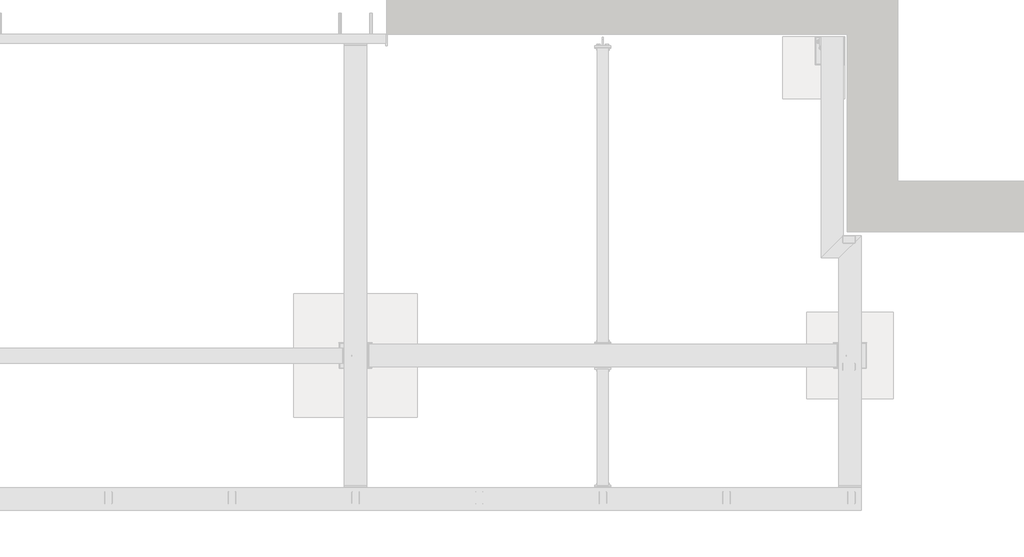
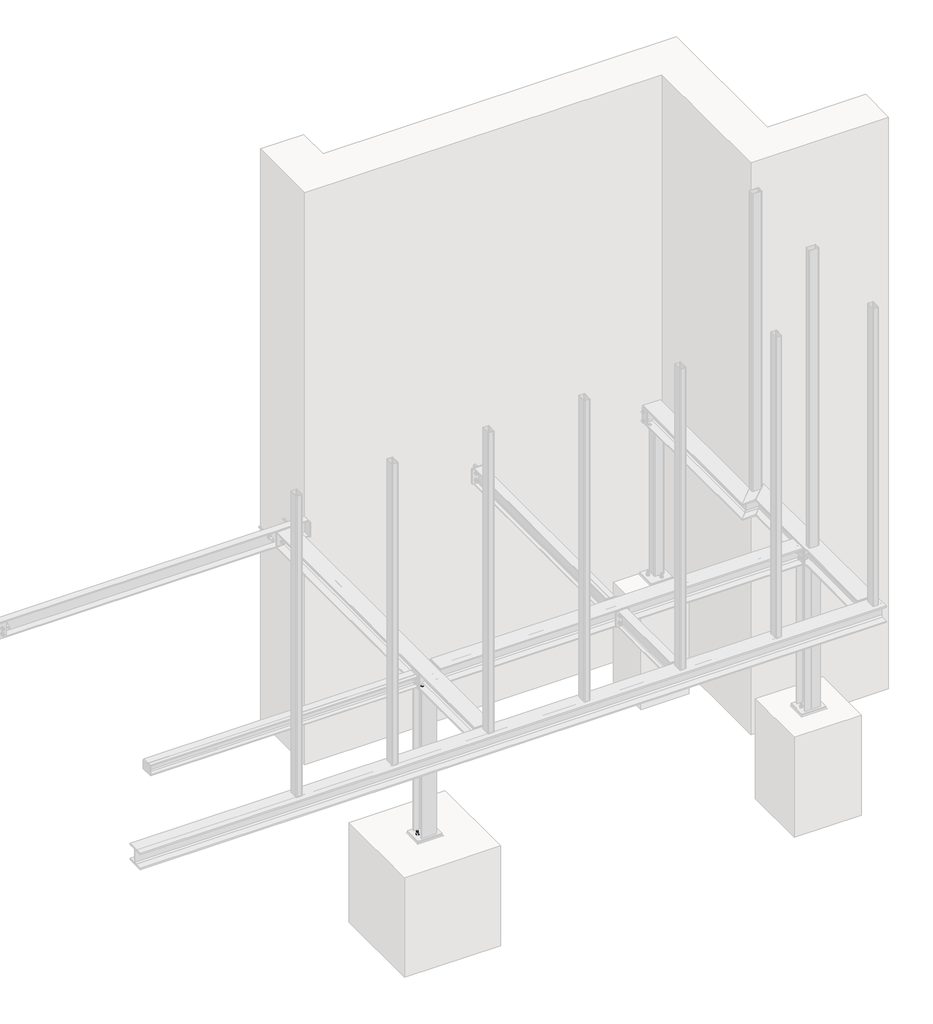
# One storey, part 27 of 31: 6 assemblies.
"""IFC4 building model written with IfcOpenShell, lengths in millimetres."""

import ifcopenshell
import ifcopenshell.guid

model = None  # the IFC model being written
_history = None  # IfcOwnerHistory: only IFC2X3 demands one
_inside = {}  # id of a spatial element -> (the spatial element, [elements in it])
_under = {}  # id of a project, library or spatial element -> (it, [spatial elements below it])
_declared = {}  # id of a project -> (the project, [libraries it declares])
_typed = {}  # id of a type object -> (the type object, [elements of that type])
_made_of = {}  # id of a material, layer set ... -> (it, [elements and type objects made of it])


def new_model(schema):
    """Start an empty IFC model of exactly this schema.

    Asked for "IFC4X3", IfcOpenShell would pick the latest addendum, in which some entities
    have other attributes; the version numbers below select the first issue.
    IFC2X3 requires an IfcOwnerHistory on every rooted entity: one is made here for all.
    """
    global model, _history
    if schema == "IFC4X3":
        model = ifcopenshell.file(schema_version=(4, 3, 0, 0))
    else:
        model = ifcopenshell.file(schema=schema)
    _inside.clear()
    _under.clear()
    _declared.clear()
    _typed.clear()
    _made_of.clear()
    _history = None
    if model.schema == "IFC2X3":
        org = make("IfcOrganization", Name="unknown")
        user = make(
            "IfcPersonAndOrganization",
            ThePerson=make("IfcPerson", FamilyName="unknown"),
            TheOrganization=org,
        )
        app = make(
            "IfcApplication",
            ApplicationDeveloper=org,
            Version="unknown",
            ApplicationFullName="unknown",
            ApplicationIdentifier="unknown",
        )
        _history = make(
            "IfcOwnerHistory",
            OwningUser=user,
            OwningApplication=app,
            ChangeAction="ADDED",
            CreationDate=0,
        )
    return model


def make(cls, **values):
    """One entity of the class cls with the attributes given. An attribute that is None is left unset."""
    return model.create_entity(
        cls, **{name: value for name, value in values.items() if value is not None}
    )


def rooted(cls, **values):
    """An entity with a GlobalId (a new one), such as an element, a storey or a relation."""
    return make(cls, GlobalId=ifcopenshell.guid.new(), OwnerHistory=_history, **values)


def si_unit(unit_type, name, prefix=None):
    """IfcSIUnit, for example si_unit("LENGTHUNIT", "METRE", prefix="MILLI")."""
    return make("IfcSIUnit", UnitType=unit_type, Prefix=prefix, Name=name)


def assignment(units):
    """IfcUnitAssignment: the units of a project."""
    return None if units is None else make("IfcUnitAssignment", Units=units)


def point(xyz):
    """IfcCartesianPoint."""
    return None if xyz is None else make("IfcCartesianPoint", Coordinates=xyz)


def direction(xyz):
    """IfcDirection."""
    return None if xyz is None else make("IfcDirection", DirectionRatios=xyz)


def frame(location, z_axis=None, x_axis=None):
    """IfcAxis2Placement3D, a coordinate frame: its origin and axes. An axis left out is left unset."""
    return make(
        "IfcAxis2Placement3D",
        Location=point(location),
        Axis=direction(z_axis),
        RefDirection=direction(x_axis),
    )


def frame_2d(location, x_axis=None):
    """IfcAxis2Placement2D, a coordinate frame in the plane: its origin and x axis."""
    return make(
        "IfcAxis2Placement2D", Location=point(location), RefDirection=direction(x_axis)
    )


def origin():
    """The frame at (0, 0, 0) with its axes left unset."""
    return frame((0.0, 0.0, 0.0))


def place(relative_to, where):
    """IfcLocalPlacement: puts the frame where relative to a parent placement (None: the world)."""
    return make(
        "IfcLocalPlacement", PlacementRelTo=relative_to, RelativePlacement=where
    )


def context(
    kind, dimensions, precision=None, world=None, true_north=None, identifier=None
):
    """IfcGeometricRepresentationContext, for example the 3D "Model" context."""
    return make(
        "IfcGeometricRepresentationContext",
        ContextIdentifier=identifier,
        ContextType=kind,
        CoordinateSpaceDimension=dimensions,
        Precision=precision,
        WorldCoordinateSystem=world,
        TrueNorth=true_north,
    )


def project(units=None, contexts=None):
    """IfcProject with its units and contexts."""
    return rooted(
        "IfcProject",
        Name="project",
        RepresentationContexts=contexts,
        UnitsInContext=assignment(units),
    )


def spatial(cls, under=None, at=None, **own):
    """A site, building, storey or space (cls), placed at a placement, below another one or the project."""
    s = rooted(cls, ObjectPlacement=at, **own)
    if under is not None:
        _under.setdefault(under.id(), (under, []))[1].append(s)
    return s


def polyline(points):
    """IfcPolyline through the points."""
    return make("IfcPolyline", Points=[point(p) for p in points])


def circle_curve(where, radius):
    """IfcCircle in the frame where."""
    return make("IfcCircle", Position=where, Radius=radius)


def trimmed(basis, trim1, trim2, sense, master):
    """IfcTrimmedCurve: the piece of a basis curve between two trims."""
    return make(
        "IfcTrimmedCurve",
        BasisCurve=basis,
        Trim1=trim1,
        Trim2=trim2,
        SenseAgreement=sense,
        MasterRepresentation=master,
    )


def segment(curve, same_sense, transition):
    """IfcCompositeCurveSegment."""
    return make(
        "IfcCompositeCurveSegment",
        Transition=transition,
        SameSense=same_sense,
        ParentCurve=curve,
    )


def composite_curve(segments, self_intersect=None):
    """IfcCompositeCurve: segments joined end to end."""
    return make("IfcCompositeCurve", Segments=segments, SelfIntersect=self_intersect)


def outline(outer, holes=None, kind="AREA"):
    """IfcArbitraryClosedProfileDef: a profile drawn as a closed curve; with holes, ...WithVoids."""
    if holes is None:
        return make("IfcArbitraryClosedProfileDef", ProfileType=kind, OuterCurve=outer)
    return make(
        "IfcArbitraryProfileDefWithVoids",
        ProfileType=kind,
        OuterCurve=outer,
        InnerCurves=holes,
    )


def extrude(swept, where, along, depth):
    """IfcExtrudedAreaSolid: the profile swept, set in the frame where, extruded along a direction by depth."""
    return make(
        "IfcExtrudedAreaSolid",
        SweptArea=swept,
        Position=where,
        ExtrudedDirection=direction(along),
        Depth=depth,
    )


def faces_of(points, faces, orient=None, outer=None):
    """IfcFace entities. A face is a list of loops; a loop is a list of indices into points, from 0.

    orient and outer hold one flag for each loop. By default every Orientation is true, the
    first loop of a face is its IfcFaceOuterBound and the others are IfcFaceBound.
    """
    made = []
    for i, loops in enumerate(faces):
        bounds = []
        for j, loop in enumerate(loops):
            is_outer = j == 0 if outer is None else outer[i][j]
            bounds.append(
                make(
                    "IfcFaceOuterBound" if is_outer else "IfcFaceBound",
                    Bound=make("IfcPolyLoop", Polygon=[points[k] for k in loop]),
                    Orientation=True if orient is None else orient[i][j],
                )
            )
        made.append(make("IfcFace", Bounds=bounds))
    return made


def faceted_brep(points, faces, orient=None, outer=None, voids=None):
    """IfcFacetedBrep: a solid bounded by flat faces; with voids (closed shells), ...WithVoids."""
    shared = [point(p) for p in points]
    hull = make("IfcClosedShell", CfsFaces=faces_of(shared, faces, orient, outer))
    if voids is None:
        return make("IfcFacetedBrep", Outer=hull)
    return make(
        "IfcFacetedBrepWithVoids",
        Outer=hull,
        Voids=[
            make(cls, CfsFaces=faces_of(shared, fs, o, b)) for cls, fs, o, b in voids
        ],
    )


def shape(context_of_items, identifier, shape_type, items):
    """IfcShapeRepresentation: the items that make up one representation, for example the "Body"."""
    return make(
        "IfcShapeRepresentation",
        ContextOfItems=context_of_items,
        RepresentationIdentifier=identifier,
        RepresentationType=shape_type,
        Items=items,
    )


def made_of(thing, what):
    """Note that an element or type object is made of a material, layer set ...; save() writes the relation."""
    if what is not None:
        _made_of.setdefault(what.id(), (what, []))[1].append(thing)
    return thing


def element(
    cls,
    number,
    at=None,
    inside=None,
    cuts=None,
    type_object=None,
    material=None,
    context=None,
    identifier="Body",
    shape_type=None,
    held_by="IfcProductDefinitionShape",
    body=None,
    shapes=None,
    **own,
):
    """One element of the class cls, such as IfcWall. Its Tag is "e" and its number.

    at: its placement. inside: the storey or other place that contains it. cuts: it is an
    opening in that element (IfcRelVoidsElement). A single representation is given by context,
    identifier, shape_type and body (its items); several are given by shapes. held_by: the class
    of the entity that holds the representations. save() writes the other relations.
    """
    e = rooted(cls, Tag="e%d" % number, ObjectPlacement=at, **own)
    if body is not None:
        shapes = [shape(context, identifier, shape_type, body)]
    if shapes is not None:
        e.Representation = make(held_by, Representations=shapes)
    if inside is not None:
        _inside.setdefault(inside.id(), (inside, []))[1].append(e)
    if cuts is not None:
        rooted(
            "IfcRelVoidsElement", RelatingBuildingElement=cuts, RelatedOpeningElement=e
        )
    if type_object is not None:
        _typed.setdefault(type_object.id(), (type_object, []))[1].append(e)
    return made_of(e, material)


def aggregate(whole, parts):
    """IfcRelAggregates: a whole, such as a stair, and the parts it consists of."""
    return rooted("IfcRelAggregates", RelatingObject=whole, RelatedObjects=parts)


def save(model, path):
    """Write the relations noted so far, then the file.

    IfcRelAggregates (storeys below a building ...), IfcRelContainedInSpatialStructure (elements
    in a storey), IfcRelDefinesByType, IfcRelAssociatesMaterial and IfcRelDeclares: one each for
    every whole, place, type object, material and project.
    """
    for whole, parts in _under.values():
        aggregate(whole, parts)
    for where, things in _inside.values():
        rooted(
            "IfcRelContainedInSpatialStructure",
            RelatedElements=things,
            RelatingStructure=where,
        )
    for kind, things in _typed.values():
        rooted("IfcRelDefinesByType", RelatedObjects=things, RelatingType=kind)
    for what, things in _made_of.values():
        rooted("IfcRelAssociatesMaterial", RelatedObjects=things, RelatingMaterial=what)
    for by, libraries in _declared.values():
        rooted("IfcRelDeclares", RelatingContext=by, RelatedDefinitions=libraries)
    model.write(path)


model = new_model("IFC4")

# Units and contexts
model_context = context("Model", 3, world=origin())
ifc_project = project(units=[si_unit("LENGTHUNIT", "METRE", prefix="MILLI")], contexts=[model_context])

# Site, building, storey
site = spatial("IfcSite", under=ifc_project)
building = spatial("IfcBuilding", under=site)
storey = spatial("IfcBuildingStorey", under=building, Name="Základy", Elevation=-1200.0)

# Assemblies
placement = place(None, origin())
element("IfcElementAssembly", 1, at=placement, inside=storey, context=model_context, shape_type="SweptSolid", body=[
    extrude(outline(composite_curve([segment(polyline([(14073.6, 60.0), (14026.4, 60.0)]), True, "CONTINUOUS"), segment(trimmed(circle_curve(frame_2d((14026.4, 66.4)), 6.4), [point((14026.4, 60.0))], [point((14020.0, 66.4))], False, "CARTESIAN"), True, "CONTINUOUS"), segment(polyline([(14020.0, 66.4), (14020.0, 153.6)]), True, "CONTINUOUS"), segment(trimmed(circle_curve(frame_2d((14026.4, 153.6)), 6.4), [point((14020.0, 153.6))], [point((14026.4, 160.0))], False, "CARTESIAN"), True, "CONTINUOUS"), segment(polyline([(14026.4, 160.0), (14073.6, 160.0)]), True, "CONTINUOUS"), segment(trimmed(circle_curve(frame_2d((14073.6, 153.6)), 6.4), [point((14073.6, 160.0))], [point((14080.0, 153.6))], False, "CARTESIAN"), True, "CONTINUOUS"), segment(polyline([(14080.0, 153.6), (14080.0, 66.4)]), True, "CONTINUOUS"), segment(trimmed(circle_curve(frame_2d((14073.6, 66.4)), 6.4), [point((14080.0, 66.4))], [point((14073.6, 60.0))], False, "CARTESIAN"), True, "CONTINUOUS")], self_intersect=False), holes=[composite_curve([segment(trimmed(circle_curve(frame_2d((14073.6, 66.4)), 3.2), [point((14073.6, 63.2))], [point((14076.8, 66.4))], True, "CARTESIAN"), True, "CONTINUOUS"), segment(polyline([(14076.8, 66.4), (14076.8, 153.6)]), True, "CONTINUOUS"), segment(trimmed(circle_curve(frame_2d((14073.6, 153.6)), 3.2), [point((14076.8, 153.6))], [point((14073.6, 156.8))], True, "CARTESIAN"), True, "CONTINUOUS"), segment(polyline([(14073.6, 156.8), (14026.4, 156.8)]), True, "CONTINUOUS"), segment(trimmed(circle_curve(frame_2d((14026.4, 153.6)), 3.2), [point((14026.4, 156.8))], [point((14023.2, 153.6))], True, "CARTESIAN"), True, "CONTINUOUS"), segment(polyline([(14023.2, 153.6), (14023.2, 66.4)]), True, "CONTINUOUS"), segment(trimmed(circle_curve(frame_2d((14026.4, 66.4)), 3.2), [point((14023.2, 66.4))], [point((14026.4, 63.2))], True, "CARTESIAN"), True, "CONTINUOUS"), segment(polyline([(14026.4, 63.2), (14073.6, 63.2)]), True, "CONTINUOUS")], self_intersect=False)]), frame((0.0, 0.0, -160.0), z_axis=(0.0, 0.0, 1.0), x_axis=(1.0, 0.0, 0.0)), (0.0, 0.0, 1.0), 3320.0),
])
element("IfcElementAssembly", 2, at=placement, inside=storey, context=model_context, shape_type="SweptSolid", body=[
    extrude(outline(composite_curve([segment(polyline([(15073.6, 60.0), (15026.4, 60.0)]), True, "CONTINUOUS"), segment(trimmed(circle_curve(frame_2d((15026.4, 66.4)), 6.4), [point((15026.4, 60.0))], [point((15020.0, 66.4))], False, "CARTESIAN"), True, "CONTINUOUS"), segment(polyline([(15020.0, 66.4), (15020.0, 153.6)]), True, "CONTINUOUS"), segment(trimmed(circle_curve(frame_2d((15026.4, 153.6)), 6.4), [point((15020.0, 153.6))], [point((15026.4, 160.0))], False, "CARTESIAN"), True, "CONTINUOUS"), segment(polyline([(15026.4, 160.0), (15073.6, 160.0)]), True, "CONTINUOUS"), segment(trimmed(circle_curve(frame_2d((15073.6, 153.6)), 6.4), [point((15073.6, 160.0))], [point((15080.0, 153.6))], False, "CARTESIAN"), True, "CONTINUOUS"), segment(polyline([(15080.0, 153.6), (15080.0, 66.4)]), True, "CONTINUOUS"), segment(trimmed(circle_curve(frame_2d((15073.6, 66.4)), 6.4), [point((15080.0, 66.4))], [point((15073.6, 60.0))], False, "CARTESIAN"), True, "CONTINUOUS")], self_intersect=False), holes=[composite_curve([segment(trimmed(circle_curve(frame_2d((15073.6, 66.4)), 3.2), [point((15073.6, 63.2))], [point((15076.8, 66.4))], True, "CARTESIAN"), True, "CONTINUOUS"), segment(polyline([(15076.8, 66.4), (15076.8, 153.6)]), True, "CONTINUOUS"), segment(trimmed(circle_curve(frame_2d((15073.6, 153.6)), 3.2), [point((15076.8, 153.6))], [point((15073.6, 156.8))], True, "CARTESIAN"), True, "CONTINUOUS"), segment(polyline([(15073.6, 156.8), (15026.4, 156.8)]), True, "CONTINUOUS"), segment(trimmed(circle_curve(frame_2d((15026.4, 153.6)), 3.2), [point((15026.4, 156.8))], [point((15023.2, 153.6))], True, "CARTESIAN"), True, "CONTINUOUS"), segment(polyline([(15023.2, 153.6), (15023.2, 66.4)]), True, "CONTINUOUS"), segment(trimmed(circle_curve(frame_2d((15026.4, 66.4)), 3.2), [point((15023.2, 66.4))], [point((15026.4, 63.2))], True, "CARTESIAN"), True, "CONTINUOUS"), segment(polyline([(15026.4, 63.2), (15073.6, 63.2)]), True, "CONTINUOUS")], self_intersect=False)]), frame((0.0, 0.0, -160.0), z_axis=(0.0, 0.0, 1.0), x_axis=(1.0, 0.0, 0.0)), (0.0, 0.0, 1.0), 3320.0),
])
element("IfcElementAssembly", 3, at=placement, inside=storey, context=model_context, shape_type="SweptSolid", body=[
    extrude(outline(composite_curve([segment(polyline([(12130.0, 1184.0), (11970.0, 1184.0), (11970.0, 1193.0), (12032.0, 1193.0)]), True, "CONTINUOUS"), segment(trimmed(circle_curve(frame_2d((12032.0, 1208.0)), 15.0), [point((12032.0, 1193.0))], [point((12047.0, 1208.0))], True, "CARTESIAN"), True, "CONTINUOUS"), segment(polyline([(12047.0, 1208.0), (12047.0, 1312.0)]), True, "CONTINUOUS"), segment(trimmed(circle_curve(frame_2d((12032.0, 1312.0)), 15.0), [point((12047.0, 1312.0))], [point((12032.0, 1327.0))], True, "CARTESIAN"), True, "CONTINUOUS"), segment(polyline([(12032.0, 1327.0), (11970.0, 1327.0), (11970.0, 1336.0), (12130.0, 1336.0), (12130.0, 1327.0), (12068.0, 1327.0)]), True, "CONTINUOUS"), segment(trimmed(circle_curve(frame_2d((12068.0, 1312.0)), 15.0), [point((12068.0, 1327.0))], [point((12053.0, 1312.0))], True, "CARTESIAN"), True, "CONTINUOUS"), segment(polyline([(12053.0, 1312.0), (12053.0, 1208.0)]), True, "CONTINUOUS"), segment(trimmed(circle_curve(frame_2d((12068.0, 1208.0)), 15.0), [point((12053.0, 1208.0))], [point((12068.0, 1193.0))], True, "CARTESIAN"), True, "CONTINUOUS"), segment(polyline([(12068.0, 1193.0), (12130.0, 1193.0), (12130.0, 1184.0)]), True, "CONTINUOUS")], self_intersect=False)), frame((0.0, 0.0, -1975.0), z_axis=(0.0, 0.0, 1.0), x_axis=(1.0, 0.0, 0.0)), (0.0, 0.0, 1.0), 1625.0),
    extrude(outline(polyline([(12175.0, 1356.0), (12175.0, 1164.0), (11925.0, 1164.0), (11925.0, 1356.0), (12175.0, 1356.0)])), frame((0.0, 0.0, -1990.0), z_axis=(0.0, 0.0, 1.0), x_axis=(1.0, 0.0, 0.0)), (0.0, 0.0, 1.0), 15.0),
    extrude(outline(polyline([(12140.0, 1346.0), (12140.0, 1174.0), (11960.0, 1174.0), (11960.0, 1346.0), (12140.0, 1346.0)])), frame((0.0, 0.0, -350.0), z_axis=(0.0, 0.0, 1.0), x_axis=(1.0, 0.0, 0.0)), (0.0, 0.0, 1.0), 10.0),
    extrude(outline(polyline([(11982.7364934, 1260.0), (11978.8682467, 1253.3000002), (11971.1317533, 1253.3000002), (11967.2635066, 1260.0), (11971.1317533, 1266.6999998), (11978.8682467, 1266.6999998), (11982.7364934, 1260.0)])), frame((0.0, 0.0, -2122.0), z_axis=(0.0, 0.0, 1.0), x_axis=(1.0, 0.0, 0.0)), (0.0, 0.0, 1.0), 132.0),
    extrude(outline(composite_curve([segment(trimmed(circle_curve(frame_2d((11975.0, 1260.0)), 8.0), [point((11983.0, 1260.0))], [point((11967.0, 1260.0))], False, "CARTESIAN"), True, "CONTINUOUS"), segment(trimmed(circle_curve(frame_2d((11975.0, 1260.0)), 8.0), [point((11967.0, 1260.0))], [point((11983.0, 1260.0))], False, "CARTESIAN"), True, "CONTINUOUS")], self_intersect=False)), frame((0.0, 0.0, -1990.0), z_axis=(0.0, 0.0, 1.0), x_axis=(1.0, 0.0, 0.0)), (0.0, 0.0, 1.0), 58.0),
    extrude(outline(composite_curve([segment(trimmed(circle_curve(frame_2d((11975.0, 1260.0)), 15.0), [point((11990.0, 1260.0))], [point((11960.0, 1260.0))], False, "CARTESIAN"), True, "CONTINUOUS"), segment(trimmed(circle_curve(frame_2d((11975.0, 1260.0)), 15.0), [point((11960.0, 1260.0))], [point((11990.0, 1260.0))], False, "CARTESIAN"), True, "CONTINUOUS")], self_intersect=False)), frame((0.0, 0.0, -1975.0), z_axis=(0.0, 0.0, 1.0), x_axis=(1.0, 0.0, 0.0)), (0.0, 0.0, 1.0), 3.0),
    extrude(outline(polyline([(11990.4441197, 1260.0), (11982.7220599, 1246.625), (11967.2779401, 1246.625), (11959.5558803, 1260.0), (11967.2779401, 1273.375), (11982.7220599, 1273.375), (11990.4441197, 1260.0)])), frame((0.0, 0.0, -1972.0), z_axis=(0.0, 0.0, 1.0), x_axis=(1.0, 0.0, 0.0)), (0.0, 0.0, 1.0), 13.0),
    extrude(outline(composite_curve([segment(trimmed(circle_curve(frame_2d((11975.0, 1260.0)), 9.0), [point((11984.0, 1260.0))], [point((11966.0, 1260.0))], False, "CARTESIAN"), True, "CONTINUOUS"), segment(trimmed(circle_curve(frame_2d((11975.0, 1260.0)), 9.0), [point((11966.0, 1260.0))], [point((11984.0, 1260.0))], False, "CARTESIAN"), True, "CONTINUOUS")], self_intersect=False)), frame((0.0, 0.0, -1990.0), z_axis=(0.0, 0.0, 1.0), x_axis=(1.0, 0.0, 0.0)), (0.0, 0.0, 1.0), 15.1),
    extrude(outline(polyline([(12132.7364934, 1260.0), (12128.8682467, 1253.3000002), (12121.1317533, 1253.3000002), (12117.2635066, 1260.0), (12121.1317533, 1266.6999998), (12128.8682467, 1266.6999998), (12132.7364934, 1260.0)])), frame((0.0, 0.0, -2122.0), z_axis=(0.0, 0.0, 1.0), x_axis=(1.0, 0.0, 0.0)), (0.0, 0.0, 1.0), 132.0),
    extrude(outline(composite_curve([segment(trimmed(circle_curve(frame_2d((12125.0, 1260.0)), 8.0), [point((12133.0, 1260.0))], [point((12117.0, 1260.0))], False, "CARTESIAN"), True, "CONTINUOUS"), segment(trimmed(circle_curve(frame_2d((12125.0, 1260.0)), 8.0), [point((12117.0, 1260.0))], [point((12133.0, 1260.0))], False, "CARTESIAN"), True, "CONTINUOUS")], self_intersect=False)), frame((0.0, 0.0, -1990.0), z_axis=(0.0, 0.0, 1.0), x_axis=(1.0, 0.0, 0.0)), (0.0, 0.0, 1.0), 58.0),
    extrude(outline(composite_curve([segment(trimmed(circle_curve(frame_2d((12125.0, 1260.0)), 15.0), [point((12140.0, 1260.0))], [point((12110.0, 1260.0))], False, "CARTESIAN"), True, "CONTINUOUS"), segment(trimmed(circle_curve(frame_2d((12125.0, 1260.0)), 15.0), [point((12110.0, 1260.0))], [point((12140.0, 1260.0))], False, "CARTESIAN"), True, "CONTINUOUS")], self_intersect=False)), frame((0.0, 0.0, -1975.0), z_axis=(0.0, 0.0, 1.0), x_axis=(1.0, 0.0, 0.0)), (0.0, 0.0, 1.0), 3.0),
    extrude(outline(polyline([(12140.4441197, 1260.0), (12132.7220599, 1246.625), (12117.2779401, 1246.625), (12109.5558803, 1260.0), (12117.2779401, 1273.375), (12132.7220599, 1273.375), (12140.4441197, 1260.0)])), frame((0.0, 0.0, -1972.0), z_axis=(0.0, 0.0, 1.0), x_axis=(1.0, 0.0, 0.0)), (0.0, 0.0, 1.0), 13.0),
    extrude(outline(composite_curve([segment(trimmed(circle_curve(frame_2d((12125.0, 1260.0)), 9.0), [point((12134.0, 1260.0))], [point((12116.0, 1260.0))], False, "CARTESIAN"), True, "CONTINUOUS"), segment(trimmed(circle_curve(frame_2d((12125.0, 1260.0)), 9.0), [point((12116.0, 1260.0))], [point((12134.0, 1260.0))], False, "CARTESIAN"), True, "CONTINUOUS")], self_intersect=False)), frame((0.0, 0.0, -1990.0), z_axis=(0.0, 0.0, 1.0), x_axis=(1.0, 0.0, 0.0)), (0.0, 0.0, 1.0), 15.1),
    extrude(outline(composite_curve([segment(trimmed(circle_curve(frame_2d((12000.0, 1220.0)), 6.5), [point((12006.5, 1220.0))], [point((11993.5, 1220.0))], False, "CARTESIAN"), True, "CONTINUOUS"), segment(trimmed(circle_curve(frame_2d((12000.0, 1220.0)), 6.5), [point((11993.5, 1220.0))], [point((12006.5, 1220.0))], False, "CARTESIAN"), True, "CONTINUOUS")], self_intersect=False)), frame((0.0, 0.0, -350.0), z_axis=(0.0, 0.0, 1.0), x_axis=(1.0, 0.0, 0.0)), (0.0, 0.0, 1.0), 10.1),
    extrude(outline(polyline([(12010.3923048, 1220.0), (12005.1961524, 1211.0), (11994.8038476, 1211.0), (11989.6076952, 1220.0), (11994.8038476, 1229.0), (12005.1961524, 1229.0), (12010.3923048, 1220.0)])), frame((0.0, 0.0, -323.5), z_axis=(0.0, 0.0, 1.0), x_axis=(1.0, 0.0, 0.0)), (0.0, 0.0, 1.0), 7.5),
    extrude(outline(composite_curve([segment(trimmed(circle_curve(frame_2d((12000.0, 1220.0)), 6.0), [point((12006.0, 1220.0))], [point((11994.0, 1220.0))], False, "CARTESIAN"), True, "CONTINUOUS"), segment(trimmed(circle_curve(frame_2d((12000.0, 1220.0)), 6.0), [point((11994.0, 1220.0))], [point((12006.0, 1220.0))], False, "CARTESIAN"), True, "CONTINUOUS")], self_intersect=False)), frame((0.0, 0.0, -368.5), z_axis=(0.0, 0.0, 1.0), x_axis=(1.0, 0.0, 0.0)), (0.0, 0.0, 1.0), 45.0),
    extrude(outline(composite_curve([segment(trimmed(circle_curve(frame_2d((12000.0, 1220.0)), 12.0), [point((12012.0, 1220.0))], [point((11988.0, 1220.0))], False, "CARTESIAN"), True, "CONTINUOUS"), segment(trimmed(circle_curve(frame_2d((12000.0, 1220.0)), 12.0), [point((11988.0, 1220.0))], [point((12012.0, 1220.0))], False, "CARTESIAN"), True, "CONTINUOUS")], self_intersect=False)), frame((0.0, 0.0, -326.0), z_axis=(0.0, 0.0, 1.0), x_axis=(1.0, 0.0, 0.0)), (0.0, 0.0, 1.0), 2.5),
    extrude(outline(composite_curve([segment(trimmed(circle_curve(frame_2d((12000.0, 1220.0)), 12.0), [point((12012.0, 1220.0))], [point((11988.0, 1220.0))], False, "CARTESIAN"), True, "CONTINUOUS"), segment(trimmed(circle_curve(frame_2d((12000.0, 1220.0)), 12.0), [point((11988.0, 1220.0))], [point((12012.0, 1220.0))], False, "CARTESIAN"), True, "CONTINUOUS")], self_intersect=False)), frame((0.0, 0.0, -352.5), z_axis=(0.0, 0.0, 1.0), x_axis=(1.0, 0.0, 0.0)), (0.0, 0.0, 1.0), 2.5),
    extrude(outline(polyline([(12010.9696551, 1220.0), (12005.4848276, 1210.5), (11994.5151724, 1210.5), (11989.0303449, 1220.0), (11994.5151724, 1229.5), (12005.4848276, 1229.5), (12010.9696551, 1220.0)])), frame((0.0, 0.0, -362.5), z_axis=(0.0, 0.0, 1.0), x_axis=(1.0, 0.0, 0.0)), (0.0, 0.0, 1.0), 10.0),
    extrude(outline(composite_curve([segment(trimmed(circle_curve(frame_2d((12000.0, 1220.0)), 6.5), [point((12006.5, 1220.0))], [point((11993.5, 1220.0))], False, "CARTESIAN"), True, "CONTINUOUS"), segment(trimmed(circle_curve(frame_2d((12000.0, 1220.0)), 6.5), [point((11993.5, 1220.0))], [point((12006.5, 1220.0))], False, "CARTESIAN"), True, "CONTINUOUS")], self_intersect=False)), frame((0.0, 0.0, -340.1), z_axis=(0.0, 0.0, 1.0), x_axis=(1.0, 0.0, 0.0)), (0.0, 0.0, 1.0), 14.0),
    extrude(outline(composite_curve([segment(trimmed(circle_curve(frame_2d((12100.0, 1220.0)), 6.5), [point((12106.5, 1220.0))], [point((12093.5, 1220.0))], False, "CARTESIAN"), True, "CONTINUOUS"), segment(trimmed(circle_curve(frame_2d((12100.0, 1220.0)), 6.5), [point((12093.5, 1220.0))], [point((12106.5, 1220.0))], False, "CARTESIAN"), True, "CONTINUOUS")], self_intersect=False)), frame((0.0, 0.0, -350.0), z_axis=(0.0, 0.0, 1.0), x_axis=(1.0, 0.0, 0.0)), (0.0, 0.0, 1.0), 10.1),
    extrude(outline(polyline([(12110.3923048, 1220.0), (12105.1961524, 1211.0), (12094.8038476, 1211.0), (12089.6076952, 1220.0), (12094.8038476, 1229.0), (12105.1961524, 1229.0), (12110.3923048, 1220.0)])), frame((0.0, 0.0, -323.5), z_axis=(0.0, 0.0, 1.0), x_axis=(1.0, 0.0, 0.0)), (0.0, 0.0, 1.0), 7.5),
    extrude(outline(composite_curve([segment(trimmed(circle_curve(frame_2d((12100.0, 1220.0)), 6.0), [point((12106.0, 1220.0))], [point((12094.0, 1220.0))], False, "CARTESIAN"), True, "CONTINUOUS"), segment(trimmed(circle_curve(frame_2d((12100.0, 1220.0)), 6.0), [point((12094.0, 1220.0))], [point((12106.0, 1220.0))], False, "CARTESIAN"), True, "CONTINUOUS")], self_intersect=False)), frame((0.0, 0.0, -368.5), z_axis=(0.0, 0.0, 1.0), x_axis=(1.0, 0.0, 0.0)), (0.0, 0.0, 1.0), 45.0),
    extrude(outline(composite_curve([segment(trimmed(circle_curve(frame_2d((12100.0, 1220.0)), 12.0), [point((12112.0, 1220.0))], [point((12088.0, 1220.0))], False, "CARTESIAN"), True, "CONTINUOUS"), segment(trimmed(circle_curve(frame_2d((12100.0, 1220.0)), 12.0), [point((12088.0, 1220.0))], [point((12112.0, 1220.0))], False, "CARTESIAN"), True, "CONTINUOUS")], self_intersect=False)), frame((0.0, 0.0, -326.0), z_axis=(0.0, 0.0, 1.0), x_axis=(1.0, 0.0, 0.0)), (0.0, 0.0, 1.0), 2.5),
    extrude(outline(composite_curve([segment(trimmed(circle_curve(frame_2d((12100.0, 1220.0)), 12.0), [point((12112.0, 1220.0))], [point((12088.0, 1220.0))], False, "CARTESIAN"), True, "CONTINUOUS"), segment(trimmed(circle_curve(frame_2d((12100.0, 1220.0)), 12.0), [point((12088.0, 1220.0))], [point((12112.0, 1220.0))], False, "CARTESIAN"), True, "CONTINUOUS")], self_intersect=False)), frame((0.0, 0.0, -352.5), z_axis=(0.0, 0.0, 1.0), x_axis=(1.0, 0.0, 0.0)), (0.0, 0.0, 1.0), 2.5),
    extrude(outline(polyline([(12110.9696551, 1220.0), (12105.4848276, 1210.5), (12094.5151724, 1210.5), (12089.0303449, 1220.0), (12094.5151724, 1229.5), (12105.4848276, 1229.5), (12110.9696551, 1220.0)])), frame((0.0, 0.0, -362.5), z_axis=(0.0, 0.0, 1.0), x_axis=(1.0, 0.0, 0.0)), (0.0, 0.0, 1.0), 10.0),
    extrude(outline(composite_curve([segment(trimmed(circle_curve(frame_2d((12100.0, 1220.0)), 6.5), [point((12106.5, 1220.0))], [point((12093.5, 1220.0))], False, "CARTESIAN"), True, "CONTINUOUS"), segment(trimmed(circle_curve(frame_2d((12100.0, 1220.0)), 6.5), [point((12093.5, 1220.0))], [point((12106.5, 1220.0))], False, "CARTESIAN"), True, "CONTINUOUS")], self_intersect=False)), frame((0.0, 0.0, -340.1), z_axis=(0.0, 0.0, 1.0), x_axis=(1.0, 0.0, 0.0)), (0.0, 0.0, 1.0), 14.0),
    extrude(outline(composite_curve([segment(trimmed(circle_curve(frame_2d((12000.0, 1300.0)), 6.5), [point((12006.5, 1300.0))], [point((11993.5, 1300.0))], False, "CARTESIAN"), True, "CONTINUOUS"), segment(trimmed(circle_curve(frame_2d((12000.0, 1300.0)), 6.5), [point((11993.5, 1300.0))], [point((12006.5, 1300.0))], False, "CARTESIAN"), True, "CONTINUOUS")], self_intersect=False)), frame((0.0, 0.0, -350.0), z_axis=(0.0, 0.0, 1.0), x_axis=(1.0, 0.0, 0.0)), (0.0, 0.0, 1.0), 10.1),
    extrude(outline(polyline([(12010.3923048, 1300.0), (12005.1961524, 1291.0), (11994.8038476, 1291.0), (11989.6076952, 1300.0), (11994.8038476, 1309.0), (12005.1961524, 1309.0), (12010.3923048, 1300.0)])), frame((0.0, 0.0, -323.5), z_axis=(0.0, 0.0, 1.0), x_axis=(1.0, 0.0, 0.0)), (0.0, 0.0, 1.0), 7.5),
    extrude(outline(composite_curve([segment(trimmed(circle_curve(frame_2d((12000.0, 1300.0)), 6.0), [point((12006.0, 1300.0))], [point((11994.0, 1300.0))], False, "CARTESIAN"), True, "CONTINUOUS"), segment(trimmed(circle_curve(frame_2d((12000.0, 1300.0)), 6.0), [point((11994.0, 1300.0))], [point((12006.0, 1300.0))], False, "CARTESIAN"), True, "CONTINUOUS")], self_intersect=False)), frame((0.0, 0.0, -368.5), z_axis=(0.0, 0.0, 1.0), x_axis=(1.0, 0.0, 0.0)), (0.0, 0.0, 1.0), 45.0),
    extrude(outline(composite_curve([segment(trimmed(circle_curve(frame_2d((12000.0, 1300.0)), 12.0), [point((12012.0, 1300.0))], [point((11988.0, 1300.0))], False, "CARTESIAN"), True, "CONTINUOUS"), segment(trimmed(circle_curve(frame_2d((12000.0, 1300.0)), 12.0), [point((11988.0, 1300.0))], [point((12012.0, 1300.0))], False, "CARTESIAN"), True, "CONTINUOUS")], self_intersect=False)), frame((0.0, 0.0, -326.0), z_axis=(0.0, 0.0, 1.0), x_axis=(1.0, 0.0, 0.0)), (0.0, 0.0, 1.0), 2.5),
    extrude(outline(composite_curve([segment(trimmed(circle_curve(frame_2d((12000.0, 1300.0)), 12.0), [point((12012.0, 1300.0))], [point((11988.0, 1300.0))], False, "CARTESIAN"), True, "CONTINUOUS"), segment(trimmed(circle_curve(frame_2d((12000.0, 1300.0)), 12.0), [point((11988.0, 1300.0))], [point((12012.0, 1300.0))], False, "CARTESIAN"), True, "CONTINUOUS")], self_intersect=False)), frame((0.0, 0.0, -352.5), z_axis=(0.0, 0.0, 1.0), x_axis=(1.0, 0.0, 0.0)), (0.0, 0.0, 1.0), 2.5),
    extrude(outline(polyline([(12010.9696551, 1300.0), (12005.4848276, 1290.5), (11994.5151724, 1290.5), (11989.0303449, 1300.0), (11994.5151724, 1309.5), (12005.4848276, 1309.5), (12010.9696551, 1300.0)])), frame((0.0, 0.0, -362.5), z_axis=(0.0, 0.0, 1.0), x_axis=(1.0, 0.0, 0.0)), (0.0, 0.0, 1.0), 10.0),
    extrude(outline(composite_curve([segment(trimmed(circle_curve(frame_2d((12000.0, 1300.0)), 6.5), [point((12006.5, 1300.0))], [point((11993.5, 1300.0))], False, "CARTESIAN"), True, "CONTINUOUS"), segment(trimmed(circle_curve(frame_2d((12000.0, 1300.0)), 6.5), [point((11993.5, 1300.0))], [point((12006.5, 1300.0))], False, "CARTESIAN"), True, "CONTINUOUS")], self_intersect=False)), frame((0.0, 0.0, -340.1), z_axis=(0.0, 0.0, 1.0), x_axis=(1.0, 0.0, 0.0)), (0.0, 0.0, 1.0), 14.0),
    extrude(outline(composite_curve([segment(trimmed(circle_curve(frame_2d((12100.0, 1300.0)), 6.5), [point((12106.5, 1300.0))], [point((12093.5, 1300.0))], False, "CARTESIAN"), True, "CONTINUOUS"), segment(trimmed(circle_curve(frame_2d((12100.0, 1300.0)), 6.5), [point((12093.5, 1300.0))], [point((12106.5, 1300.0))], False, "CARTESIAN"), True, "CONTINUOUS")], self_intersect=False)), frame((0.0, 0.0, -350.0), z_axis=(0.0, 0.0, 1.0), x_axis=(1.0, 0.0, 0.0)), (0.0, 0.0, 1.0), 10.1),
    extrude(outline(polyline([(12110.3923048, 1300.0), (12105.1961524, 1291.0), (12094.8038476, 1291.0), (12089.6076952, 1300.0), (12094.8038476, 1309.0), (12105.1961524, 1309.0), (12110.3923048, 1300.0)])), frame((0.0, 0.0, -323.5), z_axis=(0.0, 0.0, 1.0), x_axis=(1.0, 0.0, 0.0)), (0.0, 0.0, 1.0), 7.5),
    extrude(outline(composite_curve([segment(trimmed(circle_curve(frame_2d((12100.0, 1300.0)), 6.0), [point((12106.0, 1300.0))], [point((12094.0, 1300.0))], False, "CARTESIAN"), True, "CONTINUOUS"), segment(trimmed(circle_curve(frame_2d((12100.0, 1300.0)), 6.0), [point((12094.0, 1300.0))], [point((12106.0, 1300.0))], False, "CARTESIAN"), True, "CONTINUOUS")], self_intersect=False)), frame((0.0, 0.0, -368.5), z_axis=(0.0, 0.0, 1.0), x_axis=(1.0, 0.0, 0.0)), (0.0, 0.0, 1.0), 45.0),
    extrude(outline(composite_curve([segment(trimmed(circle_curve(frame_2d((12100.0, 1300.0)), 12.0), [point((12112.0, 1300.0))], [point((12088.0, 1300.0))], False, "CARTESIAN"), True, "CONTINUOUS"), segment(trimmed(circle_curve(frame_2d((12100.0, 1300.0)), 12.0), [point((12088.0, 1300.0))], [point((12112.0, 1300.0))], False, "CARTESIAN"), True, "CONTINUOUS")], self_intersect=False)), frame((0.0, 0.0, -326.0), z_axis=(0.0, 0.0, 1.0), x_axis=(1.0, 0.0, 0.0)), (0.0, 0.0, 1.0), 2.5),
    extrude(outline(composite_curve([segment(trimmed(circle_curve(frame_2d((12100.0, 1300.0)), 12.0), [point((12112.0, 1300.0))], [point((12088.0, 1300.0))], False, "CARTESIAN"), True, "CONTINUOUS"), segment(trimmed(circle_curve(frame_2d((12100.0, 1300.0)), 12.0), [point((12088.0, 1300.0))], [point((12112.0, 1300.0))], False, "CARTESIAN"), True, "CONTINUOUS")], self_intersect=False)), frame((0.0, 0.0, -352.5), z_axis=(0.0, 0.0, 1.0), x_axis=(1.0, 0.0, 0.0)), (0.0, 0.0, 1.0), 2.5),
    extrude(outline(polyline([(12110.9696551, 1300.0), (12105.4848276, 1290.5), (12094.5151724, 1290.5), (12089.0303449, 1300.0), (12094.5151724, 1309.5), (12105.4848276, 1309.5), (12110.9696551, 1300.0)])), frame((0.0, 0.0, -362.5), z_axis=(0.0, 0.0, 1.0), x_axis=(1.0, 0.0, 0.0)), (0.0, 0.0, 1.0), 10.0),
    extrude(outline(composite_curve([segment(trimmed(circle_curve(frame_2d((12100.0, 1300.0)), 6.5), [point((12106.5, 1300.0))], [point((12093.5, 1300.0))], False, "CARTESIAN"), True, "CONTINUOUS"), segment(trimmed(circle_curve(frame_2d((12100.0, 1300.0)), 6.5), [point((12093.5, 1300.0))], [point((12106.5, 1300.0))], False, "CARTESIAN"), True, "CONTINUOUS")], self_intersect=False)), frame((0.0, 0.0, -340.1), z_axis=(0.0, 0.0, 1.0), x_axis=(1.0, 0.0, 0.0)), (0.0, 0.0, 1.0), 14.0),
])
element("IfcElementAssembly", 4, at=placement, inside=storey, context=model_context, shape_type="SweptSolid", body=[
    extrude(outline(polyline([(12550.0, 1760.0), (12550.0, 760.0), (11550.0, 760.0), (11550.0, 1760.0), (12550.0, 1760.0)])), frame((0.0, 0.0, -3100.0), z_axis=(0.0, 0.0, 1.0), x_axis=(1.0, 0.0, 0.0)), (0.0, 0.0, 1.0), 1100.0),
])
element("IfcElementAssembly", 5, at=placement, inside=storey, context=model_context, shape_type="SweptSolid", body=[
    extrude(outline(composite_curve([segment(polyline([(-340.0, 14095.5), (-332.0, 14095.5), (-332.0, 14061.6500001)]), True, "CONTINUOUS"), segment(trimmed(circle_curve(frame_2d((-323.0, 14061.6500001)), 9.0), [point((-332.0, 14061.6500001))], [point((-323.0, 14052.6500001))], True, "CARTESIAN"), True, "CONTINUOUS"), segment(polyline([(-323.0, 14052.6500001), (-177.0, 14052.6500001)]), True, "CONTINUOUS"), segment(trimmed(circle_curve(frame_2d((-177.0, 14061.6500001)), 9.0), [point((-177.0, 14052.6500001))], [point((-168.0, 14061.6500001))], True, "CARTESIAN"), True, "CONTINUOUS"), segment(polyline([(-168.0, 14061.6500001), (-168.0, 14095.5), (-160.0, 14095.5), (-160.0, 14004.5), (-168.0, 14004.5), (-168.0, 14038.3499999)]), True, "CONTINUOUS"), segment(trimmed(circle_curve(frame_2d((-177.0, 14038.3499999)), 9.0), [point((-168.0, 14038.3499999))], [point((-177.0, 14047.3499999))], True, "CARTESIAN"), True, "CONTINUOUS"), segment(polyline([(-177.0, 14047.3499999), (-323.0, 14047.3499999)]), True, "CONTINUOUS"), segment(trimmed(circle_curve(frame_2d((-323.0, 14038.3499999)), 9.0), [point((-323.0, 14047.3499999))], [point((-332.0, 14038.3499999))], True, "CARTESIAN"), True, "CONTINUOUS"), segment(polyline([(-332.0, 14038.3499999), (-332.0, 14004.5), (-340.0, 14004.5), (-340.0, 14095.5)]), True, "CONTINUOUS")], self_intersect=False)), frame((0.0, 210.0, 0.0), z_axis=(0.0, 1.0, 0.0), x_axis=(0.0, 0.0, 1.0)), (0.0, 0.0, 1.0), 940.0),
    extrude(outline(polyline([(13985.0, 210.0), (14115.0, 210.0), (14115.0, 200.0), (13985.0, 200.0), (13985.0, 210.0)])), frame((0.0, 0.0, -332.0), z_axis=(0.0, 0.0, 1.0), x_axis=(1.0, 0.0, 0.0)), (0.0, 0.0, 1.0), 164.0),
    extrude(outline(polyline([(13985.0, 1160.0), (14115.0, 1160.0), (14115.0, 1150.0), (13985.0, 1150.0), (13985.0, 1160.0)])), frame((0.0, 0.0, -332.0), z_axis=(0.0, 0.0, 1.0), x_axis=(1.0, 0.0, 0.0)), (0.0, 0.0, 1.0), 164.0),
])
element("IfcElementAssembly", 6, at=placement, inside=storey, context=model_context, shape_type="Brep", body=[
    faceted_brep([(11925.0, 1356.0, -1990.0), (11925.0, 1164.0, -1990.0), (12175.0, 1164.0, -1990.0), (12175.0, 1356.0, -1990.0), (12185.0, 1154.0, -2000.0), (11915.0, 1154.0, -2000.0), (11915.0, 1366.0, -2000.0), (12185.0, 1366.0, -2000.0)], [[[0, 1, 2, 3]], [[4, 5, 6, 7]], [[5, 4, 2, 1]], [[1, 0, 6, 5]], [[7, 6, 0, 3]], [[3, 2, 4, 7]]]),
])

save(model, "model.ifc")
